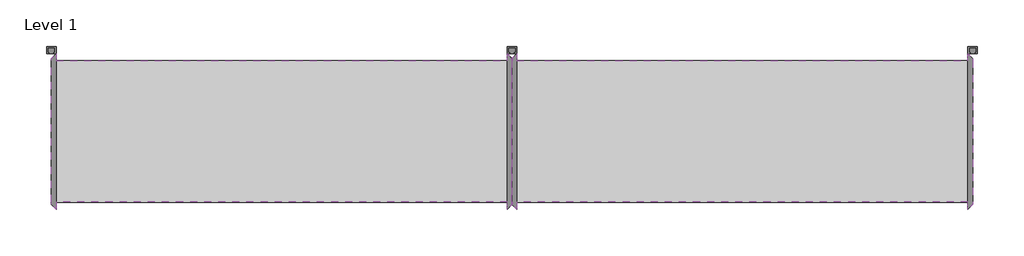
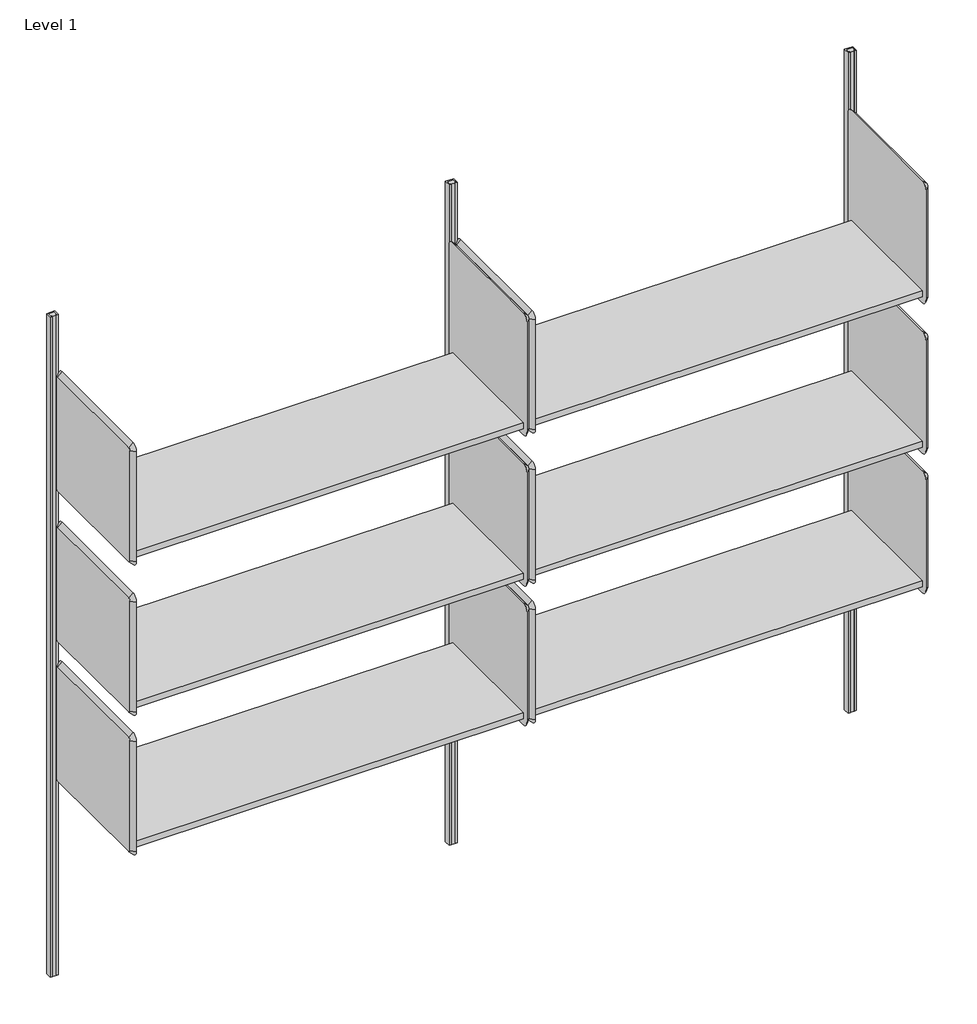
# One storey: 9 furniture elements.
"""IFC4 building model written with IfcOpenShell, lengths in millimetres."""

from ifc_helpers import new_model, si_unit, origin, place, context, project, spatial, transform, mapped, element, save
from components import furniture_85efdc16, furniture_1d66e7f8, furniture_a231a7aa, furniture_ea425779

model = new_model("IFC4")

# Units and contexts
model_context = context("Model", 3, world=origin())
ifc_project = project(units=[si_unit("LENGTHUNIT", "METRE", prefix="MILLI")], contexts=[model_context])

# Site, building, storey
site = spatial("IfcSite", under=ifc_project)
building = spatial("IfcBuilding", under=site)
storey = spatial("IfcBuildingStorey", under=building, Name="Level 1", Elevation=0.0)

# Furniture
placement = place(None, origin())
furniture_shape = furniture_85efdc16(model_context)
element("IfcFurniture", 1, ObjectType="HermanMiller_ActionOffice_A3210_B-StyleShelf : 15-1/2H 16D 48W", at=placement, inside=storey, context=model_context, shape_type="MappedRepresentation", body=[
    mapped(furniture_shape, transform((1952.7420045, -238.125, 0.0), x_axis=(1.0, 0.0, 0.0), y_axis=(0.0, 1.0, 0.0), z_axis=(0.0, 0.0, 1.0))),
])
element("IfcFurniture", 2, ObjectType="HermanMiller_ActionOffice_A3210_B-StyleShelf : 15-1/2H 16D 48W", at=placement, inside=storey, context=model_context, shape_type="MappedRepresentation", body=[
    mapped(furniture_shape, transform((733.5420045, -238.125, 0.0), x_axis=(1.0, 0.0, 0.0), y_axis=(0.0, 1.0, 0.0), z_axis=(0.0, 0.0, 1.0))),
])
furniture_2_shape = furniture_1d66e7f8(model_context)
element("IfcFurniture", 3, ObjectType="HermanMiller_ActionOffice_A3210_B-StyleShelf : 15-1/2H 16D 48W", at=placement, inside=storey, context=model_context, shape_type="MappedRepresentation", body=[
    mapped(furniture_2_shape, transform((1952.7420045, -238.125, 0.0), x_axis=(1.0, 0.0, 0.0), y_axis=(0.0, 1.0, 0.0), z_axis=(0.0, 0.0, 1.0))),
])
element("IfcFurniture", 4, ObjectType="HermanMiller_ActionOffice_A3210_B-StyleShelf : 15-1/2H 16D 48W", at=placement, inside=storey, context=model_context, shape_type="MappedRepresentation", body=[
    mapped(furniture_2_shape, transform((733.5420045, -238.125, 0.0), x_axis=(1.0, 0.0, 0.0), y_axis=(0.0, 1.0, 0.0), z_axis=(0.0, 0.0, 1.0))),
])
furniture_3_shape = furniture_a231a7aa(model_context)
element("IfcFurniture", 5, ObjectType="HermanMiller_ActionOffice_A3210_B-StyleShelf : 15-1/2H 16D 48W", at=placement, inside=storey, context=model_context, shape_type="MappedRepresentation", body=[
    mapped(furniture_3_shape, transform((1952.7420045, -238.125, 0.0), x_axis=(1.0, 0.0, 0.0), y_axis=(0.0, 1.0, 0.0), z_axis=(0.0, 0.0, 1.0))),
])
element("IfcFurniture", 6, ObjectType="HermanMiller_ActionOffice_A3210_B-StyleShelf : 15-1/2H 16D 48W", at=placement, inside=storey, context=model_context, shape_type="MappedRepresentation", body=[
    mapped(furniture_3_shape, transform((733.5420045, -238.125, 0.0), x_axis=(1.0, 0.0, 0.0), y_axis=(0.0, 1.0, 0.0), z_axis=(0.0, 0.0, 1.0))),
])
furniture_4_shape = furniture_ea425779(model_context)
element("IfcFurniture", 7, ObjectType="HermanMiller_ActionOffice_AO213_WallStrip : 84\"H", at=placement, inside=storey, context=model_context, shape_type="MappedRepresentation", body=[
    mapped(furniture_4_shape, transform((2438.4, 0.0, 0.0), x_axis=(1.0, 0.0, 0.0), y_axis=(0.0, 1.0, 0.0), z_axis=(0.0, 0.0, 1.0))),
])
element("IfcFurniture", 8, ObjectType="HermanMiller_ActionOffice_AO213_WallStrip : 84\"H", at=placement, inside=storey, context=model_context, shape_type="MappedRepresentation", body=[
    mapped(furniture_4_shape, transform((1219.2, 0.0, 0.0), x_axis=(1.0, 0.0, 0.0), y_axis=(0.0, 1.0, 0.0), z_axis=(0.0, 0.0, 1.0))),
])
element("IfcFurniture", 9, ObjectType="HermanMiller_ActionOffice_AO213_WallStrip : 84\"H", at=placement, inside=storey, context=model_context, shape_type="MappedRepresentation", body=[
    mapped(furniture_4_shape, transform((0.0, 0.0, 0.0), x_axis=(1.0, 0.0, 0.0), y_axis=(0.0, 1.0, 0.0), z_axis=(0.0, 0.0, 1.0))),
])

save(model, "model.ifc")
